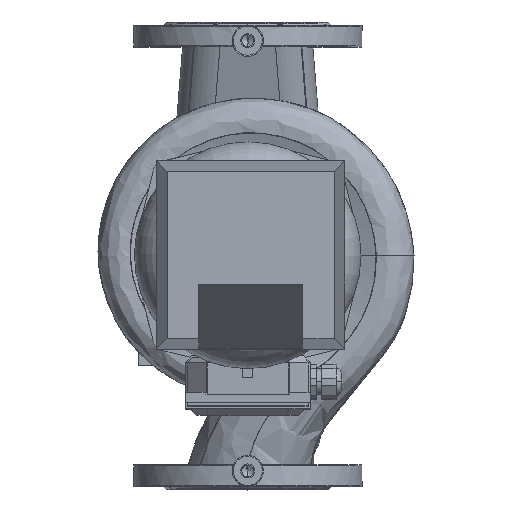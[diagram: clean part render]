
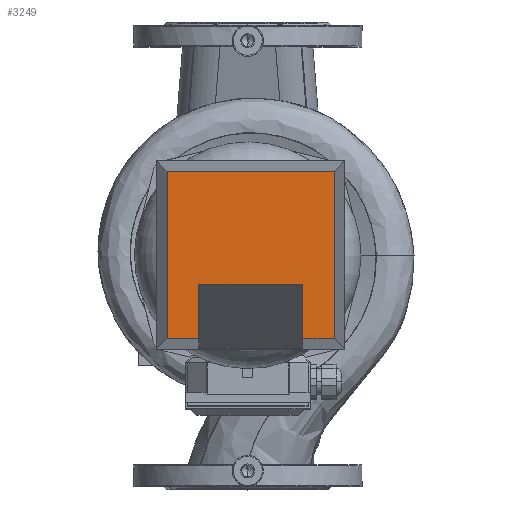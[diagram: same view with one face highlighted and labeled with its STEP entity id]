
A CAD part, top view. The second image highlights one B-rep face of the part: STEP entity #3249.
In plain terms, the highlighted planar face has unit normal (0, 0, 1) as drawn and (0, 1, 0) by its records, which use the part's own axes.
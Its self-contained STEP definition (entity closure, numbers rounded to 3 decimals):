
#3249=ADVANCED_FACE('',(#6283),#6284,.T.);
#3259=EDGE_CURVE('',#6296,#6299,#6300,.T.);
#6283=FACE_OUTER_BOUND('',#15706,.T.);
#6284=PLANE('',#15707);
#6296=VERTEX_POINT('',#15720);
#6299=VERTEX_POINT('',#15725);
#6300=LINE('',#15726,#15727);
#15706=EDGE_LOOP('',(#25604,#25605,#25606,#25607,#25608,#25609,#25610,#25611));
#15707=AXIS2_PLACEMENT_3D('',#25612,#25613,#25614);
#15720=CARTESIAN_POINT('',(50.0,114.0,118.64));
#15725=CARTESIAN_POINT('',(50.0,114.0,171.0));
#15726=CARTESIAN_POINT('',(50.0,114.0,90.179));
#15727=VECTOR('',#25640,1.0);
#25604=ORIENTED_EDGE('',*,*,#3259,.T.);
#25605=ORIENTED_EDGE('',*,*,#30288,.F.);
#25606=ORIENTED_EDGE('',*,*,#30296,.F.);
#25607=ORIENTED_EDGE('',*,*,#30298,.F.);
#25608=ORIENTED_EDGE('',*,*,#30290,.F.);
#25609=ORIENTED_EDGE('',*,*,#30284,.F.);
#25610=ORIENTED_EDGE('',*,*,#30277,.T.);
#25611=ORIENTED_EDGE('',*,*,#30280,.T.);
#25612=CARTESIAN_POINT('',(0.0,114.0,0.0));
#25613=DIRECTION('',(0.0,1.0,-0.0));
#25614=DIRECTION('',(-1.0,0.0,0.0));
#25640=DIRECTION('',(0.0,0.0,1.0));
#30277=EDGE_CURVE('',#44264,#44266,#44268,.T.);
#30280=EDGE_CURVE('',#44266,#6296,#44271,.T.);
#30284=EDGE_CURVE('',#44264,#44275,#44276,.T.);
#30288=EDGE_CURVE('',#44281,#6299,#44283,.T.);
#30290=EDGE_CURVE('',#44275,#44285,#44286,.T.);
#30296=EDGE_CURVE('',#44291,#44281,#44293,.T.);
#30298=EDGE_CURVE('',#44285,#44291,#44295,.T.);
#44264=VERTEX_POINT('',#52291);
#44266=VERTEX_POINT('',#52294);
#44268=LINE('',#52297,#52298);
#44271=LINE('',#52302,#52303);
#44275=VERTEX_POINT('',#52308);
#44276=LINE('',#52309,#52310);
#44281=VERTEX_POINT('',#52317);
#44283=LINE('',#52320,#52321);
#44285=VERTEX_POINT('',#52323);
#44286=LINE('',#52324,#52325);
#44291=VERTEX_POINT('',#52333);
#44293=LINE('',#52336,#52337);
#44295=LINE('',#52339,#52340);
#52291=CARTESIAN_POINT('',(-50.0,114.0,171.0));
#52294=CARTESIAN_POINT('',(-50.0,114.0,118.64));
#52297=CARTESIAN_POINT('',(-50.0,114.0,90.179));
#52298=VECTOR('',#59985,1.0);
#52302=CARTESIAN_POINT('',(25.0,114.0,118.64));
#52303=VECTOR('',#59987,1.0);
#52308=CARTESIAN_POINT('',(-80.5,114.0,171.0));
#52309=CARTESIAN_POINT('',(45.25,114.0,171.0));
#52310=VECTOR('',#59989,1.0);
#52317=CARTESIAN_POINT('',(80.5,114.0,171.0));
#52320=CARTESIAN_POINT('',(45.25,114.0,171.0));
#52321=VECTOR('',#59993,1.0);
#52323=CARTESIAN_POINT('',(-80.5,114.0,10.0));
#52324=CARTESIAN_POINT('',(-80.5,114.0,0.0));
#52325=VECTOR('',#59994,1.0);
#52333=CARTESIAN_POINT('',(80.5,114.0,10.0));
#52336=CARTESIAN_POINT('',(80.5,114.0,0.0));
#52337=VECTOR('',#59999,1.0);
#52339=CARTESIAN_POINT('',(45.25,114.0,10.0));
#52340=VECTOR('',#60000,1.0);
#59985=DIRECTION('',(-0.0,0.0,-1.0));
#59987=DIRECTION('',(1.0,-0.0,0.0));
#59989=DIRECTION('',(-1.0,0.0,-0.0));
#59993=DIRECTION('',(-1.0,0.0,-0.0));
#59994=DIRECTION('',(-0.0,-0.0,-1.0));
#59999=DIRECTION('',(-0.0,0.0,1.0));
#60000=DIRECTION('',(1.0,-0.0,-0.0));
